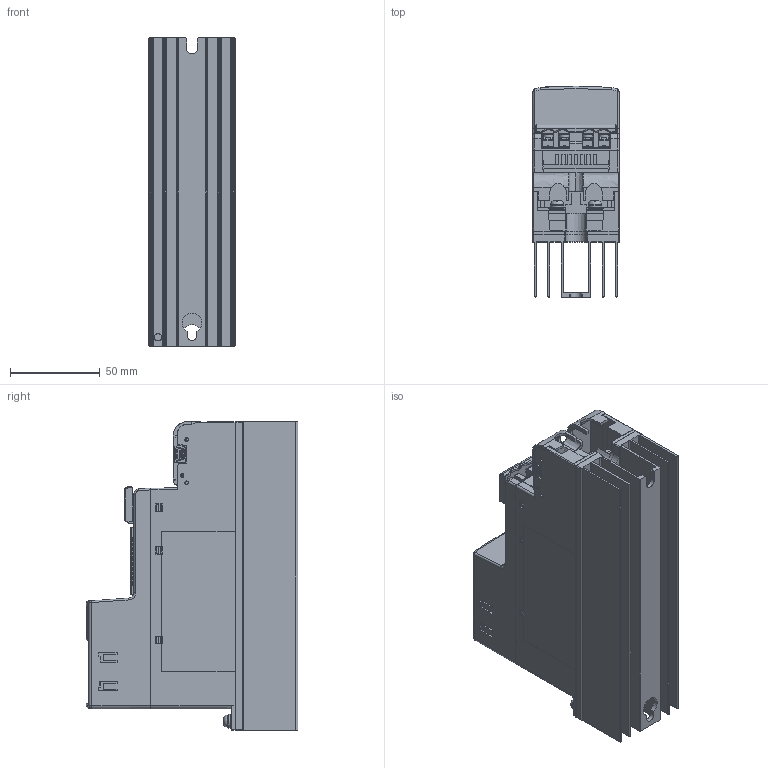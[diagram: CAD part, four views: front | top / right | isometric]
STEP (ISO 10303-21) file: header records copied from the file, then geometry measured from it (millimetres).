
FILE_DESCRIPTION (( 'STEP AP214' ), '1' );
FILE_NAME ('THV10(20 30A)_WEB.STEP', '2020-06-08T07:50:48', ( '' ), ( '' ), 'SwSTEP 2.0', 'SolidWorks 2018', '' );
FILE_SCHEMA (( 'AUTOMOTIVE_DESIGN' ));
Length unit declared in the file: millimetre
Products named in the file (4): KTHV10-52_WEB_デフォルト; THV10(20 30A)_WEB; THV10_2030A(基本設計)_デフォルト; KTHV4-53 _WEB_デフォルト
Assembly tree (3 placements, depth 2):
  THV10(20 30A)_WEB
    THV10_2030A(基本設計)_デフォルト
    KTHV10-52_WEB_デフォルト
    KTHV4-53 _WEB_デフォルト
Bounding box: 48.2 x 118 x 172 mm (x, y, z)
Volume: 497978.7 mm3; surface area: 154657 mm2
Topology: 3 solids, 8 shells, 6056 faces, 17211 edges, 11321 vertices
Faces by surface type: plane 4487, bspline 819, cylinder 676, cone 39, torus 19, sphere 16
Full cylindrical faces by diameter (mm): 0.4 x1, 0.457 x1, 0.7 x4, 1.262 x4, 1.6 x1, 3 x8, 4 x8, 4.5 x1, 5.5 x4, 7 x3, 8 x3
Entity records: 270611 total; most frequent: CARTESIAN_POINT 59947, ORIENTED_EDGE 34226, DIRECTION 25329, EDGE_CURVE 17113, LINE 12901, VECTOR 12901, VERTEX_POINT 11292, EDGE_LOOP 6509
